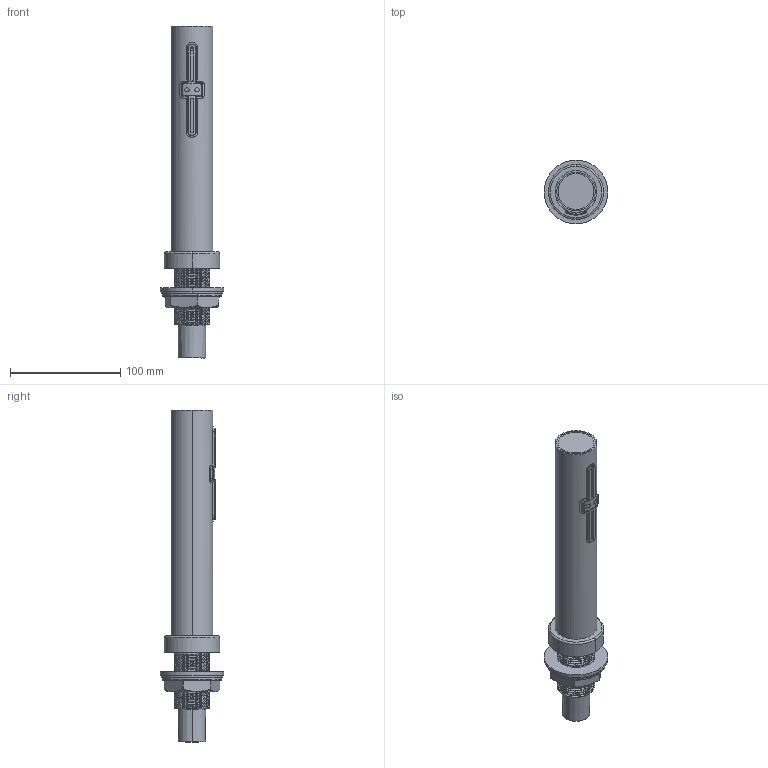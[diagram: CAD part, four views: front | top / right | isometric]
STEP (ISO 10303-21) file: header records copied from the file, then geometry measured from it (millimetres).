
FILE_DESCRIPTION (( 'STEP AP214' ), '1' );
FILE_NAME ('EcoTap牆面式.STEP', '2016-07-26T08:19:20', ( 'user' ), ( '' ), 'SwSTEP 2.0', 'SolidWorks 2011', '' );
FILE_SCHEMA (( 'AUTOMOTIVE_DESIGN' ));
Length unit declared in the file: millimetre
Products named in the file (20): EcoTap牆面式出風管飾板_Default; EcoTap牆面式出風管_38D-220_Default; EcoTap細排出風口上蓋; EcoTap細排出風口LED_Default; hex nut style 1 gradeab_iso_Hexagon Nut ISO - 4032 - M4 - D - N; EcoTap細排出風口迫緊_Default; EcoTap出風管導光塞頭_Default; EcoTap出風管座; EcoTap細排出風口; EcoTap出風管座螺帽_Default; EcoTap牆面式出風龍頭; EcoTap牆面式出風管固定片; EcoTap華司; EcoTap出風管導光塞頭飾板_Default; EcoTap墊片; EcoTap出風龍頭墊片; EcoTap細排感應器護蓋背膠_Default; EcoTap細排出風口Sensor_Default; EcoTap牆面式; EcoTap細排感應器護蓋_Default
Assembly tree (19 placements, depth 3):
  EcoTap牆面式
    EcoTap細排出風口LED_Default
    EcoTap細排感應器護蓋背膠_Default
    EcoTap出風龍頭墊片
    EcoTap細排出風口迫緊_Default
    EcoTap出風管座
    EcoTap細排出風口上蓋
    EcoTap出風管導光塞頭飾板_Default
    EcoTap細排出風口Sensor_Default
    EcoTap出風管座螺帽_Default
    EcoTap出風管導光塞頭_Default
    EcoTap墊片
    hex nut style 1 gradeab_iso_Hexagon Nut ISO - 4032 - M4 - D - N
    EcoTap華司
    EcoTap牆面式出風龍頭
      EcoTap牆面式出風管_38D-220_Default
      EcoTap牆面式出風管固定片
      EcoTap牆面式出風管飾板_Default
    EcoTap細排出風口
    EcoTap細排感應器護蓋_Default
Bounding box: 58 x 58 x 301.2 mm (x, y, z)
Volume: 160604.1 mm3; surface area: 140017.8 mm2
Topology: 22 solids, 22 shells, 1808 faces, 4628 edges, 2944 vertices
Faces by surface type: plane 642, cylinder 566, cone 240, bspline 195, torus 159, sphere 6
Entity records: 70870 total; most frequent: CARTESIAN_POINT 29655, ORIENTED_EDGE 9236, DIRECTION 7370, EDGE_CURVE 4618, VERTEX_POINT 2940, AXIS2_PLACEMENT_3D 2747, EDGE_LOOP 1964, VECTOR 1876
